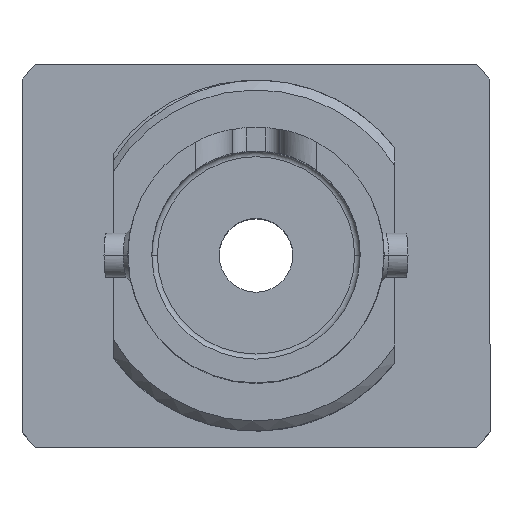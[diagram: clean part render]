
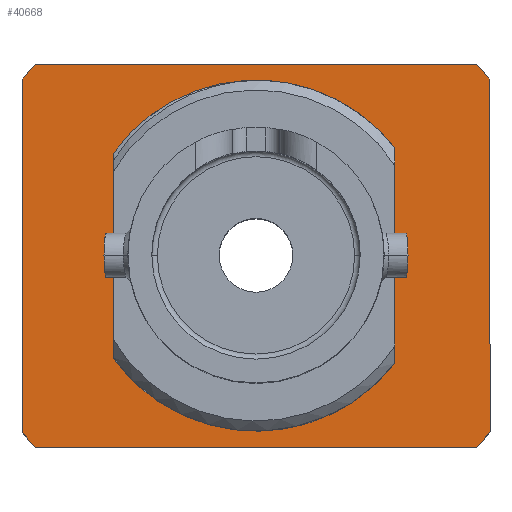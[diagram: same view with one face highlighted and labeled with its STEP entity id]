
A CAD part, top view. The second image highlights one B-rep face of the part: STEP entity #40668.
In plain terms, the highlighted planar face has unit normal (0, 0, 1).
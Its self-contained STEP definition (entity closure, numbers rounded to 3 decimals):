
#52 = DIRECTION ( 'NONE',  ( 1., 0., 0. ) ) ;
#509 = DIRECTION ( 'NONE',  ( -1., 0., 0. ) ) ;
#1182 = VERTEX_POINT ( 'NONE', #24426 ) ;
#1392 = DIRECTION ( 'NONE',  ( 0., -1., 0. ) ) ;
#1400 = DIRECTION ( 'NONE',  ( 0., 0., 1. ) ) ;
#2208 = CARTESIAN_POINT ( 'NONE',  ( 0., 0., 5.84 ) ) ;
#2422 = VECTOR ( 'NONE', #30437, 1000. ) ;
#2586 = CIRCLE ( 'NONE', #35112, 4.064 ) ;
#3230 = DIRECTION ( 'NONE',  ( 0., 0., 1. ) ) ;
#3831 = VERTEX_POINT ( 'NONE', #36702 ) ;
#3979 = DIRECTION ( 'NONE',  ( 1., 0., 0. ) ) ;
#4578 = CARTESIAN_POINT ( 'NONE',  ( 0., 0., 5.84 ) ) ;
#5426 = EDGE_CURVE ( 'NONE', #3831, #37631, #35600, .T. ) ;
#6499 = LINE ( 'NONE', #41514, #16436 ) ;
#7067 = VERTEX_POINT ( 'NONE', #33012 ) ;
#7450 = EDGE_CURVE ( 'NONE', #10711, #39983, #34049, .T. ) ;
#7993 = ORIENTED_EDGE ( 'NONE', *, *, #40567, .T. ) ;
#8096 = ORIENTED_EDGE ( 'NONE', *, *, #5426, .T. ) ;
#8146 = ORIENTED_EDGE ( 'NONE', *, *, #10868, .F. ) ;
#9377 = LINE ( 'NONE', #34874, #12550 ) ;
#9580 = FACE_BOUND ( 'NONE', #22405, .T. ) ;
#10339 = ORIENTED_EDGE ( 'NONE', *, *, #22182, .T. ) ;
#10711 = VERTEX_POINT ( 'NONE', #19647 ) ;
#10721 = DIRECTION ( 'NONE',  ( 0., 1., 0. ) ) ;
#10868 = EDGE_CURVE ( 'NONE', #34967, #35405, #33252, .T. ) ;
#11326 = CIRCLE ( 'NONE', #33057, 4.064 ) ;
#11374 = EDGE_CURVE ( 'NONE', #1182, #10711, #37872, .T. ) ;
#11437 = VECTOR ( 'NONE', #10721, 1000. ) ;
#12071 = ORIENTED_EDGE ( 'NONE', *, *, #33990, .T. ) ;
#12550 = VECTOR ( 'NONE', #32095, 1000. ) ;
#13479 = CARTESIAN_POINT ( 'NONE',  ( -6.35, 4.767, 5.84 ) ) ;
#13904 = DIRECTION ( 'NONE',  ( 0., 1., 0. ) ) ;
#14308 = LINE ( 'NONE', #29858, #19122 ) ;
#15112 = DIRECTION ( 'NONE',  ( -1., 0., 0. ) ) ;
#15941 = EDGE_CURVE ( 'NONE', #24309, #1182, #6499, .T. ) ;
#16231 = CARTESIAN_POINT ( 'NONE',  ( -5.996, -5.205, 5.84 ) ) ;
#16282 = EDGE_CURVE ( 'NONE', #37631, #39356, #36832, .T. ) ;
#16407 = CARTESIAN_POINT ( 'NONE',  ( -6.35, -4.767, 5.84 ) ) ;
#16436 = VECTOR ( 'NONE', #38744, 1000. ) ;
#17097 = DIRECTION ( 'NONE',  ( 0., 0., 1. ) ) ;
#17497 = CARTESIAN_POINT ( 'NONE',  ( 3.762, -5.205, 5.84 ) ) ;
#17686 = CARTESIAN_POINT ( 'NONE',  ( 6.35, 5.205, 5.84 ) ) ;
#17707 = DIRECTION ( 'NONE',  ( 1., 0., 0. ) ) ;
#18185 = CARTESIAN_POINT ( 'NONE',  ( 3.762, -1.537, 5.84 ) ) ;
#18485 = ORIENTED_EDGE ( 'NONE', *, *, #26725, .T. ) ;
#18909 = EDGE_CURVE ( 'NONE', #34967, #7067, #11326, .T. ) ;
#19027 = CARTESIAN_POINT ( 'NONE',  ( 3.762, 1.537, 5.84 ) ) ;
#19122 = VECTOR ( 'NONE', #13904, 1000. ) ;
#19647 = CARTESIAN_POINT ( 'NONE',  ( 6.35, -4.767, 5.84 ) ) ;
#20544 = VECTOR ( 'NONE', #1392, 1000. ) ;
#20571 = CARTESIAN_POINT ( 'NONE',  ( 0., 0., 5.84 ) ) ;
#20824 = CIRCLE ( 'NONE', #21528, 7.94 ) ;
#21528 = AXIS2_PLACEMENT_3D ( 'NONE', #39285, #28903, #52 ) ;
#22182 = EDGE_CURVE ( 'NONE', #39983, #29512, #39154, .T. ) ;
#22405 = EDGE_LOOP ( 'NONE', ( #40175, #18485, #30902, #8146 ) ) ;
#22500 = EDGE_CURVE ( 'NONE', #38000, #35405, #2586, .T. ) ;
#22524 = PLANE ( 'NONE',  #31688 ) ;
#22735 = FACE_OUTER_BOUND ( 'NONE', #36206, .T. ) ;
#23256 = CARTESIAN_POINT ( 'NONE',  ( -6.35, 5.205, 5.84 ) ) ;
#23403 = CARTESIAN_POINT ( 'NONE',  ( 0., 0., 5.84 ) ) ;
#24309 = VERTEX_POINT ( 'NONE', #16231 ) ;
#24360 = DIRECTION ( 'NONE',  ( 0., 0., 1. ) ) ;
#24426 = CARTESIAN_POINT ( 'NONE',  ( 5.996, -5.205, 5.84 ) ) ;
#24457 = DIRECTION ( 'NONE',  ( 0., 0., -1. ) ) ;
#26725 = EDGE_CURVE ( 'NONE', #7067, #38000, #14308, .T. ) ;
#28085 = ORIENTED_EDGE ( 'NONE', *, *, #11374, .T. ) ;
#28392 = AXIS2_PLACEMENT_3D ( 'NONE', #4578, #1400, #17707 ) ;
#28903 = DIRECTION ( 'NONE',  ( 0., 0., 1. ) ) ;
#29512 = VERTEX_POINT ( 'NONE', #37476 ) ;
#29858 = CARTESIAN_POINT ( 'NONE',  ( -3.868, -5.205, 5.84 ) ) ;
#30437 = DIRECTION ( 'NONE',  ( 0., 1., 0. ) ) ;
#30902 = ORIENTED_EDGE ( 'NONE', *, *, #22500, .T. ) ;
#31688 = AXIS2_PLACEMENT_3D ( 'NONE', #32301, #3230, #38862 ) ;
#32095 = DIRECTION ( 'NONE',  ( -1., 0., 0. ) ) ;
#32301 = CARTESIAN_POINT ( 'NONE',  ( 0., 0., 5.84 ) ) ;
#33012 = CARTESIAN_POINT ( 'NONE',  ( -3.868, -1.247, 5.84 ) ) ;
#33056 = CARTESIAN_POINT ( 'NONE',  ( 0., 0., 5.84 ) ) ;
#33057 = AXIS2_PLACEMENT_3D ( 'NONE', #2208, #24457, #15112 ) ;
#33252 = LINE ( 'NONE', #17497, #11437 ) ;
#33535 = DIRECTION ( 'NONE',  ( 1., 0., 0. ) ) ;
#33990 = EDGE_CURVE ( 'NONE', #29512, #3831, #9377, .T. ) ;
#34049 = LINE ( 'NONE', #17686, #2422 ) ;
#34870 = CARTESIAN_POINT ( 'NONE',  ( 6.35, 4.767, 5.84 ) ) ;
#34874 = CARTESIAN_POINT ( 'NONE',  ( -6.35, 5.205, 5.84 ) ) ;
#34967 = VERTEX_POINT ( 'NONE', #18185 ) ;
#35112 = AXIS2_PLACEMENT_3D ( 'NONE', #23403, #36361, #509 ) ;
#35162 = ORIENTED_EDGE ( 'NONE', *, *, #7450, .T. ) ;
#35405 = VERTEX_POINT ( 'NONE', #19027 ) ;
#35532 = CARTESIAN_POINT ( 'NONE',  ( -3.868, 1.247, 5.84 ) ) ;
#35600 = CIRCLE ( 'NONE', #40338, 7.94 ) ;
#36206 = EDGE_LOOP ( 'NONE', ( #12071, #8096, #38530, #7993, #36565, #28085, #35162, #10339 ) ) ;
#36361 = DIRECTION ( 'NONE',  ( 0., 0., -1. ) ) ;
#36565 = ORIENTED_EDGE ( 'NONE', *, *, #15941, .T. ) ;
#36702 = CARTESIAN_POINT ( 'NONE',  ( -5.996, 5.205, 5.84 ) ) ;
#36832 = LINE ( 'NONE', #23256, #20544 ) ;
#37476 = CARTESIAN_POINT ( 'NONE',  ( 5.996, 5.205, 5.84 ) ) ;
#37631 = VERTEX_POINT ( 'NONE', #13479 ) ;
#37872 = CIRCLE ( 'NONE', #28392, 7.94 ) ;
#38000 = VERTEX_POINT ( 'NONE', #35532 ) ;
#38530 = ORIENTED_EDGE ( 'NONE', *, *, #16282, .T. ) ;
#38744 = DIRECTION ( 'NONE',  ( 1., 0., 0. ) ) ;
#38862 = DIRECTION ( 'NONE',  ( 1., 0., 0. ) ) ;
#39154 = CIRCLE ( 'NONE', #41184, 7.94 ) ;
#39285 = CARTESIAN_POINT ( 'NONE',  ( 0., 0., 5.84 ) ) ;
#39356 = VERTEX_POINT ( 'NONE', #16407 ) ;
#39983 = VERTEX_POINT ( 'NONE', #34870 ) ;
#40175 = ORIENTED_EDGE ( 'NONE', *, *, #18909, .T. ) ;
#40338 = AXIS2_PLACEMENT_3D ( 'NONE', #20571, #24360, #33535 ) ;
#40567 = EDGE_CURVE ( 'NONE', #39356, #24309, #20824, .T. ) ;
#40668 = ADVANCED_FACE ( 'NONE', ( #9580, #22735 ), #22524, .T. ) ;
#41184 = AXIS2_PLACEMENT_3D ( 'NONE', #33056, #17097, #3979 ) ;
#41514 = CARTESIAN_POINT ( 'NONE',  ( -6.35, -5.205, 5.84 ) ) ;
